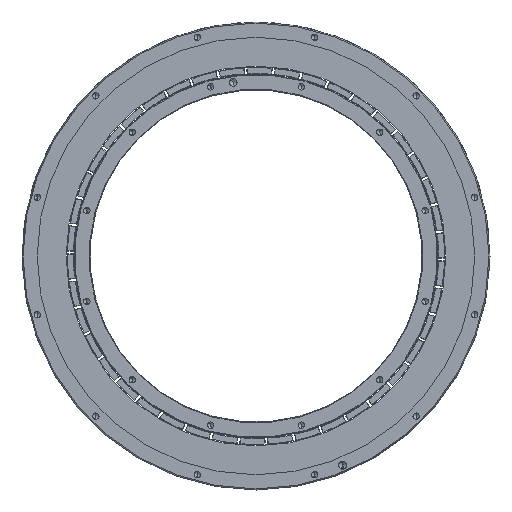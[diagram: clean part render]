
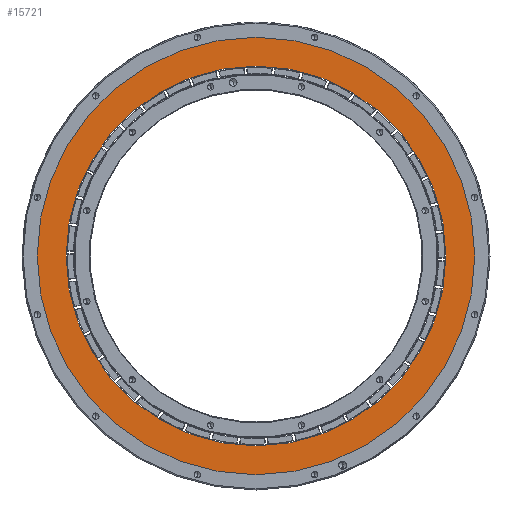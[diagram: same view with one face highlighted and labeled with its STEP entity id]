
A CAD part, front view. The second image highlights one B-rep face of the part: STEP entity #15721.
In plain terms, the highlighted planar face has unit normal (0, -1, 0).
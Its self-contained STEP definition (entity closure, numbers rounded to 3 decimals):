
#902 = CARTESIAN_POINT ( 'NONE',  ( 0., -34., -144.945 ) ) ;
#955 = DIRECTION ( 'NONE',  ( 0., 1., 0. ) ) ;
#1071 = CARTESIAN_POINT ( 'NONE',  ( 0., -34., -125.77 ) ) ;
#2807 = CIRCLE ( 'NONE', #24304, 125.77 ) ;
#3546 = FACE_BOUND ( 'NONE', #15650, .T. ) ;
#3714 = DIRECTION ( 'NONE',  ( 0., 1., 0. ) ) ;
#3727 = AXIS2_PLACEMENT_3D ( 'NONE', #27344, #3714, #14254 ) ;
#4638 = VERTEX_POINT ( 'NONE', #23996 ) ;
#4967 = ORIENTED_EDGE ( 'NONE', *, *, #22328, .T. ) ;
#5575 = ORIENTED_EDGE ( 'NONE', *, *, #28509, .T. ) ;
#5648 = CARTESIAN_POINT ( 'NONE',  ( 0., -34., 144.945 ) ) ;
#5769 = DIRECTION ( 'NONE',  ( 0., 0., 1. ) ) ;
#7674 = AXIS2_PLACEMENT_3D ( 'NONE', #27972, #33349, #14363 ) ;
#8790 = CIRCLE ( 'NONE', #7674, 125.77 ) ;
#9170 = EDGE_CURVE ( 'NONE', #12758, #17365, #34064, .T. ) ;
#9405 = VERTEX_POINT ( 'NONE', #1071 ) ;
#10937 = DIRECTION ( 'NONE',  ( 0., 1., 0. ) ) ;
#11484 = FACE_OUTER_BOUND ( 'NONE', #12944, .T. ) ;
#12531 = DIRECTION ( 'NONE',  ( 0., 0., 1. ) ) ;
#12758 = VERTEX_POINT ( 'NONE', #902 ) ;
#12944 = EDGE_LOOP ( 'NONE', ( #18702, #15947 ) ) ;
#13553 = DIRECTION ( 'NONE',  ( 0., 0., 1. ) ) ;
#14091 = CARTESIAN_POINT ( 'NONE',  ( 0., -34., 0. ) ) ;
#14254 = DIRECTION ( 'NONE',  ( 0., 0., 1. ) ) ;
#14363 = DIRECTION ( 'NONE',  ( 0., 0., 1. ) ) ;
#15650 = EDGE_LOOP ( 'NONE', ( #4967, #5575 ) ) ;
#15721 = ADVANCED_FACE ( 'NONE', ( #11484, #3546 ), #31843, .F. ) ;
#15947 = ORIENTED_EDGE ( 'NONE', *, *, #34037, .F. ) ;
#17365 = VERTEX_POINT ( 'NONE', #5648 ) ;
#18152 = CIRCLE ( 'NONE', #22569, 144.945 ) ;
#18702 = ORIENTED_EDGE ( 'NONE', *, *, #9170, .F. ) ;
#20864 = CARTESIAN_POINT ( 'NONE',  ( 0., -34., 0. ) ) ;
#22328 = EDGE_CURVE ( 'NONE', #9405, #4638, #2807, .T. ) ;
#22569 = AXIS2_PLACEMENT_3D ( 'NONE', #20864, #23429, #12531 ) ;
#23429 = DIRECTION ( 'NONE',  ( 0., 1., 0. ) ) ;
#23996 = CARTESIAN_POINT ( 'NONE',  ( 0., -34., 125.77 ) ) ;
#24304 = AXIS2_PLACEMENT_3D ( 'NONE', #31647, #10937, #13553 ) ;
#26983 = AXIS2_PLACEMENT_3D ( 'NONE', #14091, #955, #5769 ) ;
#27344 = CARTESIAN_POINT ( 'NONE',  ( 0., -34., 0. ) ) ;
#27972 = CARTESIAN_POINT ( 'NONE',  ( 0., -34., 0. ) ) ;
#28509 = EDGE_CURVE ( 'NONE', #4638, #9405, #8790, .T. ) ;
#31647 = CARTESIAN_POINT ( 'NONE',  ( 0., -34., 0. ) ) ;
#31843 = PLANE ( 'NONE',  #26983 ) ;
#33349 = DIRECTION ( 'NONE',  ( 0., 1., 0. ) ) ;
#34037 = EDGE_CURVE ( 'NONE', #17365, #12758, #18152, .T. ) ;
#34064 = CIRCLE ( 'NONE', #3727, 144.945 ) ;
